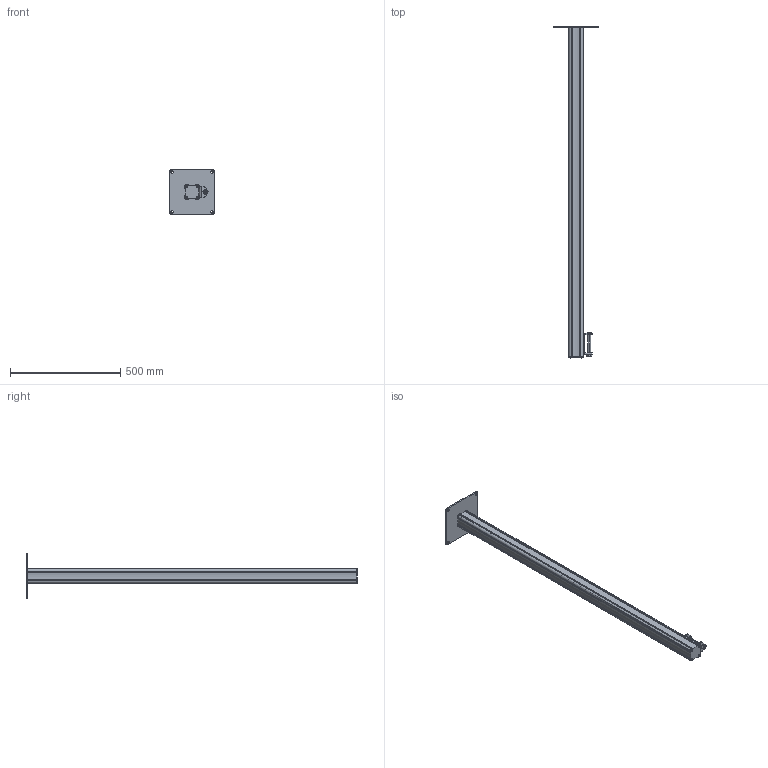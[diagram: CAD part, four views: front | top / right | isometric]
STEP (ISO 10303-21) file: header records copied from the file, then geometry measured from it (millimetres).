
FILE_DESCRIPTION((''),'2;1');
FILE_NAME('139923','2020-01-08T08:03:05',('Tomas Bellgran'),(''),'CREO PARAMETRIC BY PTC INC, 2018260','CREO PARAMETRIC BY PTC INC, 2018260','');
FILE_SCHEMA(('AUTOMOTIVE_DESIGN { 1 0 10303 214 1 1 1 1 }'));
Length unit declared in the file: millimetre
Products named in the file (10): 138774; 139918; 139460; 100-6306; 9908480; 135516; 118449; 102078; 9967826; 139923
Assembly tree (16 placements, depth 2):
  139923
    138774
    139918
    139460
    100-6306
    9908480
    135516
    118449  x4
    102078  x4
    9967826  x2
Bounding box: 200 x 1504 x 200 mm (x, y, z)
Volume: 5935083.4 mm3; surface area: 594103 mm2
Topology: 16 solids, 18 shells, 378 faces, 889 edges, 559 vertices
Faces by surface type: cylinder 194, plane 111, cone 58, sphere 10, torus 5
Entity records: 15390 total; most frequent: CARTESIAN_POINT 4684, DIRECTION 1612, ORIENTED_EDGE 1250, AXIS2_PLACEMENT_3D 645, EDGE_CURVE 629, PROPERTY_DEFINITION 510, REPRESENTATION 499, PROPERTY_DEFINITION_REPRESENTATION 499
